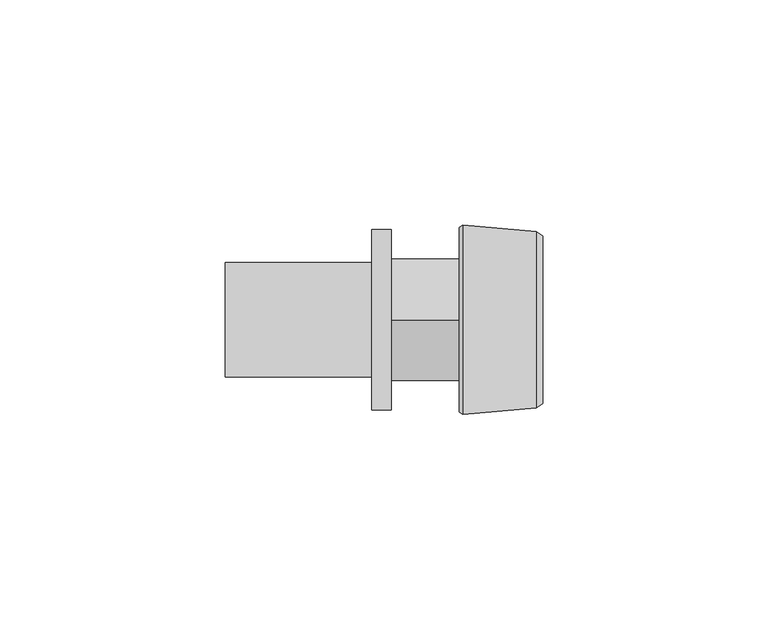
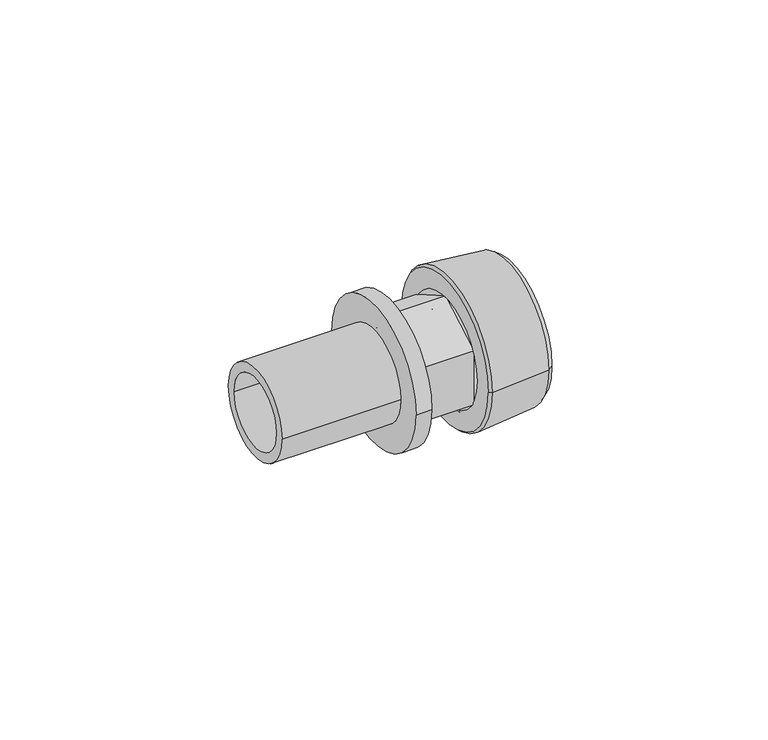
"""IFC4 building model written with IfcOpenShell, lengths in millimetres: pipe fitting geometry, REHAU_RAUTITAN_Adaptor_RX+, with external thread : REHAU_RAUTITAN_Adaptor_RX+, with external thread."""

from ifc_helpers import new_model, si_unit, point, frame, origin, origin_2d, place, context, project, spatial, polyline, circle_curve, trimmed, segment, composite_curve, outline, extrude, source, transform, mapped, element, save
from ifc_brep_helpers import plane_surface, cylinder_surface, revolved_surface, advanced_brep


def pipe_fitting_d0a43c41(model_context):
    return source(origin(), model_context, "Body", "SolidModel", [
        advanced_brep(
        [(16.2932803, 16.25, 0.0), (16.2932803, -16.25, 0.0), (33.69, -16.25, 0.0), (33.69, 16.25, 0.0), (15.19, 15.1467197, 0.0), (15.19, -15.1467197, 0.0), (15.9306902, 21.045, 0.0), (15.9306902, -21.045, 0.0), (15.19, -20.5, 0.0), (15.19, 20.5, 0.0), (32.1900007, 19.635, 0.0), (32.1900007, -19.635, 0.0), (33.69, 18.56, 0.0), (33.69, -18.56, 0.0)],
        [
            (0, 1, circle_curve(frame((16.2932803, 0.0, 0.0), z_axis=(-1.0, 0.0, 0.0), x_axis=(0.0, -1.0, 0.0)), 16.25)),
            (1, 2),
            (2, 3, circle_curve(frame((33.69, 0.0, 0.0), z_axis=(1.0, 0.0, 0.0), x_axis=(0.0, -1.0, 0.0)), 16.25)),
            (3, 0),
            (4, 5, circle_curve(frame((15.19, 0.0, 0.0), z_axis=(-1.0, 0.0, 0.0), x_axis=(0.0, -1.0, 0.0)), 15.1467197)),
            (5, 1),
            (0, 4),
            (6, 7, circle_curve(frame((15.9306902, 0.0, 0.0), z_axis=(-1.0, 0.0, 0.0), x_axis=(0.0, -1.0, 0.0)), 21.045)),
            (7, 8),
            (8, 9, circle_curve(frame((15.19, 0.0, 0.0), z_axis=(1.0, 0.0, 0.0), x_axis=(0.0, -1.0, 0.0)), 20.5)),
            (9, 6),
            (10, 11, circle_curve(frame((32.1900007, 0.0, 0.0), z_axis=(-1.0, 0.0, 0.0), x_axis=(0.0, -1.0, 0.0)), 19.635)),
            (11, 7),
            (6, 10),
            (12, 13, circle_curve(frame((33.69, 0.0, 0.0), z_axis=(-1.0, 0.0, 0.0), x_axis=(0.0, -1.0, 0.0)), 18.56)),
            (13, 11),
            (10, 12),
            (1, 0, circle_curve(frame((16.2932803, 0.0, 0.0), z_axis=(-1.0, 0.0, 0.0), x_axis=(0.0, 1.0, 0.0)), 16.25)),
            (3, 2, circle_curve(frame((33.69, 0.0, 0.0), z_axis=(1.0, 0.0, 0.0), x_axis=(0.0, 1.0, 0.0)), 16.25)),
            (5, 4, circle_curve(frame((15.19, 0.0, 0.0), z_axis=(-1.0, 0.0, 0.0), x_axis=(0.0, 1.0, 0.0)), 15.1467197)),
            (8, 9, circle_curve(frame((15.19, 0.0, 0.0), z_axis=(-1.0, 0.0, 0.0), x_axis=(0.0, 1.0, 0.0)), 20.5)),
            (7, 6, circle_curve(frame((15.9306902, 0.0, 0.0), z_axis=(-1.0, 0.0, 0.0), x_axis=(0.0, 1.0, 0.0)), 21.045)),
            (11, 10, circle_curve(frame((32.1900007, 0.0, 0.0), z_axis=(-1.0, 0.0, 0.0), x_axis=(0.0, 1.0, 0.0)), 19.635)),
            (13, 12, circle_curve(frame((33.69, 0.0, 0.0), z_axis=(-1.0, 0.0, 0.0), x_axis=(0.0, 1.0, 0.0)), 18.56)),
        ],
        [
            revolved_surface(polyline([(33.69, -16.25, 0.0), (16.2932803, -16.25, 0.0)]), (0.0, 0.0, 0.0), (1.0, 0.0, 0.0)),
            revolved_surface(polyline([(16.2932803, -16.25, 0.0), (15.19, -15.1467197, 0.0)]), (0.0, 0.0, 0.0), (1.0, 0.0, 0.0)),
            revolved_surface(polyline([(15.19, -20.5, 0.0), (15.9306902, -21.045, 0.0)]), (0.0, 0.0, 0.0), (1.0, 0.0, 0.0)),
            revolved_surface(polyline([(15.9306902, -21.045, 0.0), (32.1900007, -19.635, 0.0)]), (0.0, 0.0, 0.0), (1.0, 0.0, 0.0)),
            revolved_surface(polyline([(32.1900007, -19.635, 0.0), (33.69, -18.56, 0.0)]), (0.0, 0.0, 0.0), (1.0, 0.0, 0.0)),
            revolved_surface(polyline([(33.69, 16.25, 0.0), (16.2932803, 16.25, 0.0)]), (0.0, 0.0, 0.0), (1.0, 0.0, 0.0)),
            revolved_surface(polyline([(16.2932803, 16.25, 0.0), (15.19, 15.1467197, 0.0)]), (0.0, 0.0, 0.0), (1.0, 0.0, 0.0)),
            plane_surface(frame((15.19, 0.0, 0.0), z_axis=(-1.0, 0.0, 0.0), x_axis=(0.0, 1.0, 0.0))),
            revolved_surface(polyline([(15.19, 20.5, 0.0), (15.9306902, 21.045, 0.0)]), (0.0, 0.0, 0.0), (1.0, 0.0, 0.0)),
            revolved_surface(polyline([(15.9306902, 21.045, 0.0), (32.1900007, 19.635, 0.0)]), (0.0, 0.0, 0.0), (1.0, 0.0, 0.0)),
            revolved_surface(polyline([(32.1900007, 19.635, 0.0), (33.69, 18.56, 0.0)]), (0.0, 0.0, 0.0), (1.0, 0.0, 0.0)),
            plane_surface(frame((33.69, 0.0, 0.0), z_axis=(1.0, 0.0, 0.0), x_axis=(0.0, 1.0, 0.0))),
        ],
        [
            (0, [[1, 2, 3, 4]]),
            (1, [[5, 6, -1, 7]]),
            (2, [[8, 9, 10, 11]]),
            (3, [[12, 13, -8, 14]]),
            (4, [[15, 16, -12, 17]]),
            (5, [[18, -4, 19, -2]]),
            (6, [[20, -7, -18, -6]]),
            (7, [[21, -10], [-20, -5]]),
            (8, [[22, -11, -21, -9]]),
            (9, [[23, -14, -22, -13]]),
            (10, [[24, -17, -23, -16]]),
            (11, [[-24, -15], [-19, -3]]),
        ],
    ),
        extrude(outline(polyline([(0.0, -15.5884573), (-13.5, -7.7942286), (-13.5, 7.7942286), (0.0, 15.5884573), (13.5, 7.7942286), (13.5, -7.7942286), (0.0, -15.5884573)]), holes=[composite_curve([segment(trimmed(circle_curve(origin_2d(), 10.0), [point((-10.0, 0.0))], [point((10.0, 0.0))], True, "CARTESIAN"), True, "CONTINUOUS"), segment(trimmed(circle_curve(origin_2d(), 10.0), [point((10.0, 0.0))], [point((-10.0, 0.0))], True, "CARTESIAN"), True, "CONTINUOUS")], self_intersect=False)]), frame((0.0, 0.0, 0.0), z_axis=(1.0, 0.0, 0.0), x_axis=(0.0, 1.0, 0.0)), (0.0, 0.0, 1.0), 15.19),
        advanced_brep(
        [(-36.81, 10.0, 0.0), (-36.81, -10.0, 0.0), (0.0, -10.0, 0.0), (0.0, 10.0, 0.0), (-4.33, 12.725, 0.0), (-4.33, -12.725, 0.0), (-36.81, -12.725, 0.0), (-36.81, 12.725, 0.0), (0.0, 20.0, 0.0), (0.0, -20.0, 0.0), (-4.33, -20.0, 0.0), (-4.33, 20.0, 0.0)],
        [
            (0, 1, circle_curve(frame((-36.81, 0.0, 0.0), z_axis=(-1.0, 0.0, 0.0), x_axis=(0.0, -1.0, 0.0)), 10.0)),
            (1, 2),
            (2, 3, circle_curve(frame((0.0, 0.0, 0.0), z_axis=(1.0, 0.0, 0.0), x_axis=(0.0, -1.0, 0.0)), 10.0)),
            (3, 0),
            (4, 5, circle_curve(frame((-4.33, 0.0, 0.0), z_axis=(-1.0, 0.0, 0.0), x_axis=(0.0, -1.0, 0.0)), 12.725)),
            (5, 6),
            (6, 7, circle_curve(frame((-36.81, 0.0, 0.0), z_axis=(1.0, 0.0, 0.0), x_axis=(0.0, -1.0, 0.0)), 12.725)),
            (7, 4),
            (8, 9, circle_curve(frame((0.0, 0.0, 0.0), z_axis=(-1.0, 0.0, 0.0), x_axis=(0.0, -1.0, 0.0)), 20.0)),
            (9, 10),
            (10, 11, circle_curve(frame((-4.33, 0.0, 0.0), z_axis=(1.0, 0.0, 0.0), x_axis=(0.0, -1.0, 0.0)), 20.0)),
            (11, 8),
            (8, 9, circle_curve(frame((0.0, 0.0, 0.0), z_axis=(1.0, 0.0, 0.0), x_axis=(0.0, 1.0, 0.0)), 20.0)),
            (2, 3, circle_curve(frame((0.0, 0.0, 0.0), z_axis=(-1.0, 0.0, 0.0), x_axis=(0.0, 1.0, 0.0)), 10.0)),
            (1, 0, circle_curve(frame((-36.81, 0.0, 0.0), z_axis=(-1.0, 0.0, 0.0), x_axis=(0.0, 1.0, 0.0)), 10.0)),
            (6, 7, circle_curve(frame((-36.81, 0.0, 0.0), z_axis=(-1.0, 0.0, 0.0), x_axis=(0.0, 1.0, 0.0)), 12.725)),
            (5, 4, circle_curve(frame((-4.33, 0.0, 0.0), z_axis=(-1.0, 0.0, 0.0), x_axis=(0.0, 1.0, 0.0)), 12.725)),
            (10, 11, circle_curve(frame((-4.33, 0.0, 0.0), z_axis=(-1.0, 0.0, 0.0), x_axis=(0.0, 1.0, 0.0)), 20.0)),
        ],
        [
            revolved_surface(polyline([(0.0, -10.0, 0.0), (-36.81, -10.0, 0.0)]), (0.0, 0.0, 0.0), (1.0, 0.0, 0.0)),
            cylinder_surface(frame((0.0, 0.0, 0.0), z_axis=(1.0, 0.0, 0.0), x_axis=(0.0, -1.0, 0.0)), 12.725),
            cylinder_surface(frame((0.0, 0.0, 0.0), z_axis=(1.0, 0.0, 0.0), x_axis=(0.0, -1.0, 0.0)), 20.0),
            plane_surface(frame((0.0, 0.0, 0.0), z_axis=(1.0, 0.0, 0.0), x_axis=(0.0, 1.0, 0.0))),
            revolved_surface(polyline([(0.0, 10.0, 0.0), (-36.81, 10.0, 0.0)]), (0.0, 0.0, 0.0), (1.0, 0.0, 0.0)),
            plane_surface(frame((-36.81, 0.0, 0.0), z_axis=(-1.0, 0.0, 0.0), x_axis=(0.0, 1.0, 0.0))),
            cylinder_surface(frame((0.0, 0.0, 0.0), z_axis=(1.0, 0.0, 0.0), x_axis=(0.0, 1.0, 0.0)), 12.725),
            plane_surface(frame((-4.33, 0.0, 0.0), z_axis=(-1.0, 0.0, 0.0), x_axis=(0.0, 1.0, 0.0))),
            cylinder_surface(frame((0.0, 0.0, 0.0), z_axis=(1.0, 0.0, 0.0), x_axis=(0.0, 1.0, 0.0)), 20.0),
        ],
        [
            (0, [[1, 2, 3, 4]]),
            (1, [[5, 6, 7, 8]]),
            (2, [[9, 10, 11, 12]]),
            (3, [[13, -9], [14, -3]]),
            (4, [[15, -4, -14, -2]]),
            (5, [[16, -7], [-15, -1]]),
            (6, [[17, -8, -16, -6]]),
            (7, [[18, -11], [-17, -5]]),
            (8, [[-13, -12, -18, -10]]),
        ],
    ),
    ])


if __name__ == "__main__":
    model = new_model("IFC4")
    model_context = context("Model", 3, world=origin())
    ifc_project = project(units=[si_unit("LENGTHUNIT", "METRE", prefix="MILLI")], contexts=[model_context])
    site = spatial("IfcSite", under=ifc_project)
    building = spatial("IfcBuilding", under=site)
    placement = place(None, origin())
    pipe_fitting_shape = pipe_fitting_d0a43c41(model_context)
    element("IfcPipeFitting", 1, ObjectType="REHAU_RAUTITAN_Adaptor_RX+, with external thread : REHAU_RAUTITAN_Adaptor_RX+, with external thread", at=placement, inside=building, context=model_context, shape_type="MappedRepresentation", body=[
        mapped(pipe_fitting_shape, transform((0.0, 0.0, 0.0), x_axis=(1.0, 0.0, 0.0), y_axis=(0.0, 1.0, 0.0), z_axis=(0.0, 0.0, 1.0))),
    ])
    save(model, "model.ifc")
